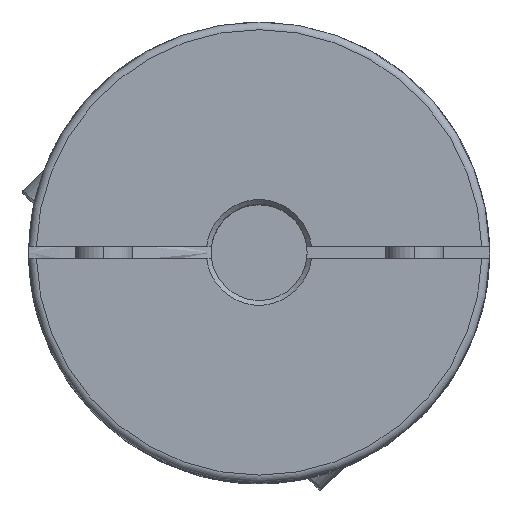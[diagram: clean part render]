
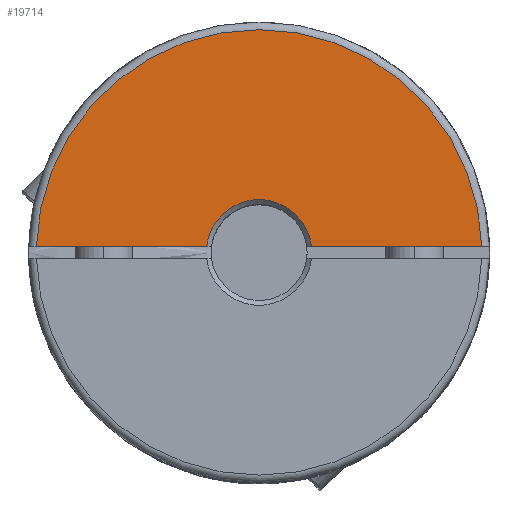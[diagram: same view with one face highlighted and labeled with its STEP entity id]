
A CAD part, top view. The second image highlights one B-rep face of the part: STEP entity #19714.
In plain terms, the highlighted planar face has unit normal (0, 0, 1).
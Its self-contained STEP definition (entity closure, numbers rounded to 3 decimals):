
#149 = DIRECTION ( 'NONE',  ( 0., 0., 1. ) ) ;
#788 = VECTOR ( 'NONE', #22941, 1000. ) ;
#1240 = CARTESIAN_POINT ( 'NONE',  ( 0., 0.6, 33.4 ) ) ;
#5580 = CARTESIAN_POINT ( 'NONE',  ( 23.192, 0.6, 33.4 ) ) ;
#6484 = AXIS2_PLACEMENT_3D ( 'NONE', #20338, #36560, #26803 ) ;
#9232 = VERTEX_POINT ( 'NONE', #42202 ) ;
#9751 = AXIS2_PLACEMENT_3D ( 'NONE', #22816, #25703, #25995 ) ;
#10781 = VERTEX_POINT ( 'NONE', #30499 ) ;
#11264 = VERTEX_POINT ( 'NONE', #5580 ) ;
#14011 = ORIENTED_EDGE ( 'NONE', *, *, #29352, .F. ) ;
#14743 = FACE_OUTER_BOUND ( 'NONE', #26304, .T. ) ;
#19553 = DIRECTION ( 'NONE',  ( 1., 0., 0. ) ) ;
#19714 = ADVANCED_FACE ( 'NONE', ( #14743 ), #41946, .T. ) ;
#20338 = CARTESIAN_POINT ( 'NONE',  ( 0., 0., 33.4 ) ) ;
#22816 = CARTESIAN_POINT ( 'NONE',  ( 0., 0., 33.4 ) ) ;
#22832 = ORIENTED_EDGE ( 'NONE', *, *, #27337, .T. ) ;
#22941 = DIRECTION ( 'NONE',  ( -1., 0., 0. ) ) ;
#23135 = ORIENTED_EDGE ( 'NONE', *, *, #29149, .F. ) ;
#23917 = CARTESIAN_POINT ( 'NONE',  ( -5.467, 0.6, 33.4 ) ) ;
#25703 = DIRECTION ( 'NONE',  ( 0., 0., 1. ) ) ;
#25995 = DIRECTION ( 'NONE',  ( 1., 0., 0. ) ) ;
#26304 = EDGE_LOOP ( 'NONE', ( #14011, #28791, #23135, #22832 ) ) ;
#26803 = DIRECTION ( 'NONE',  ( 1., 0., 0. ) ) ;
#27337 = EDGE_CURVE ( 'NONE', #11264, #10781, #33934, .T. ) ;
#27499 = DIRECTION ( 'NONE',  ( -1., 0., 0. ) ) ;
#28791 = ORIENTED_EDGE ( 'NONE', *, *, #42110, .T. ) ;
#29149 = EDGE_CURVE ( 'NONE', #11264, #9232, #34366, .T. ) ;
#29352 = EDGE_CURVE ( 'NONE', #30586, #10781, #38426, .T. ) ;
#29719 = VECTOR ( 'NONE', #27499, 1000. ) ;
#30499 = CARTESIAN_POINT ( 'NONE',  ( -23.192, 0.6, 33.4 ) ) ;
#30586 = VERTEX_POINT ( 'NONE', #23917 ) ;
#33934 = CIRCLE ( 'NONE', #9751, 23.2 ) ;
#34366 = LINE ( 'NONE', #39714, #788 ) ;
#36560 = DIRECTION ( 'NONE',  ( 0., 0., -1. ) ) ;
#37876 = AXIS2_PLACEMENT_3D ( 'NONE', #39073, #149, #19553 ) ;
#38426 = LINE ( 'NONE', #1240, #29719 ) ;
#39073 = CARTESIAN_POINT ( 'NONE',  ( 0., 0., 33.4 ) ) ;
#39714 = CARTESIAN_POINT ( 'NONE',  ( 0., 0.6, 33.4 ) ) ;
#41946 = PLANE ( 'NONE',  #37876 ) ;
#42110 = EDGE_CURVE ( 'NONE', #30586, #9232, #42334, .T. ) ;
#42202 = CARTESIAN_POINT ( 'NONE',  ( 5.467, 0.6, 33.4 ) ) ;
#42334 = CIRCLE ( 'NONE', #6484, 5.5 ) ;
